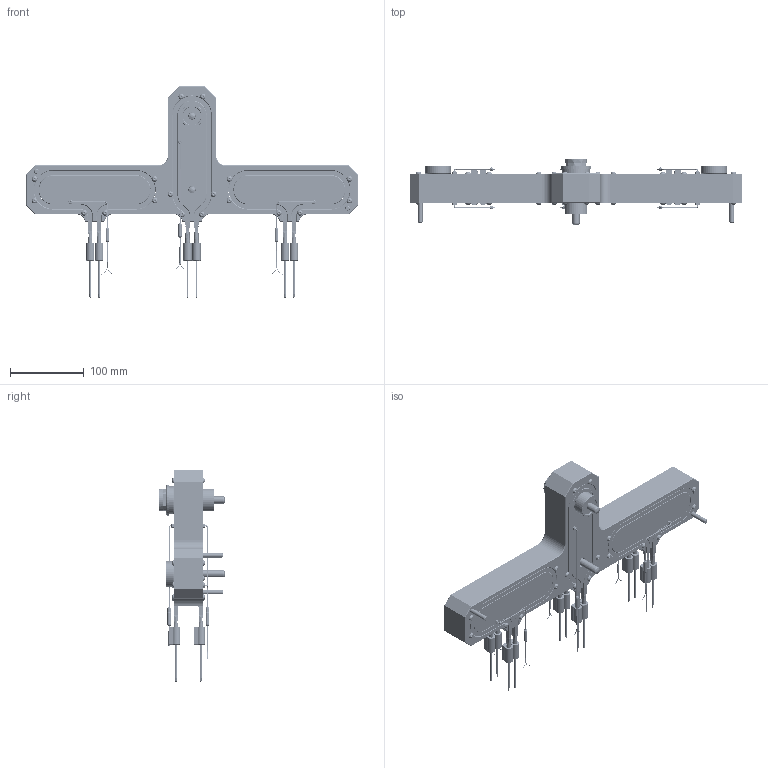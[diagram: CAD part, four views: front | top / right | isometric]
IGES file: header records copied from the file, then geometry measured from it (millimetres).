
Start section: SolidWorks IGES file using analytic representation for surfaces
Global section: file name: F:\CARTELLA CONDIVISA - 3D\01 - Piastre - 3D\Piastre Standard - Resistenza Sezione Quadrata 6x6\LF3-D02\Parte Multicorpo + Positivo Sede\CCLF3DQ-02T\CCLF3DQ-02T.IGS; native system: SolidWorks 2013; preprocessor: SolidWorks 2013; author: ws-20; date: 140129.152334; units: millimetre
Bounding box: 450 x 90 x 286 mm (x, y, z)
Surface area: 254685.6 mm2 (no closed solid volume)
Topology: 0 solids, 0 shells, 4063 faces, 44384 edges, 53478 vertices
Faces by surface type: bspline 2252, revolution 1811
